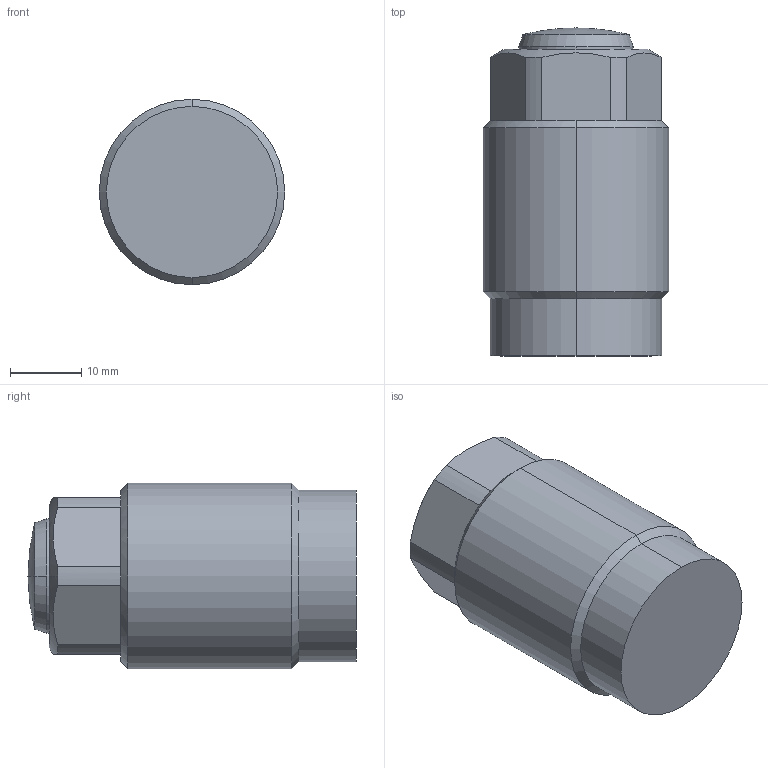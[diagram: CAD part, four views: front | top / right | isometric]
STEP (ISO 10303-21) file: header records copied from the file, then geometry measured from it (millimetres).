
FILE_DESCRIPTION (( 'STEP AP214' ), '1' );
FILE_NAME ('TC-16A.STEP', '2021-10-19T00:43:09', ( '' ), ( '' ), 'SwSTEP 2.0', 'SolidWorks 2016', '' );
FILE_SCHEMA (( 'AUTOMOTIVE_DESIGN' ));
Length unit declared in the file: millimetre
Products named in the file (1): TC-16A
Bounding box: 26 x 46 x 26 mm (x, y, z)
Volume: 21383 mm3; surface area: 4382.2 mm2
Topology: 1 solids, 1 shells, 36 faces, 80 edges, 47 vertices
Faces by surface type: plane 14, cylinder 12, cone 6, sphere 4
Entity records: 1058 total; most frequent: DIRECTION 204, CARTESIAN_POINT 164, ORIENTED_EDGE 160, AXIS2_PLACEMENT_3D 87, EDGE_CURVE 80, CIRCLE 50, VERTEX_POINT 47, EDGE_LOOP 37
